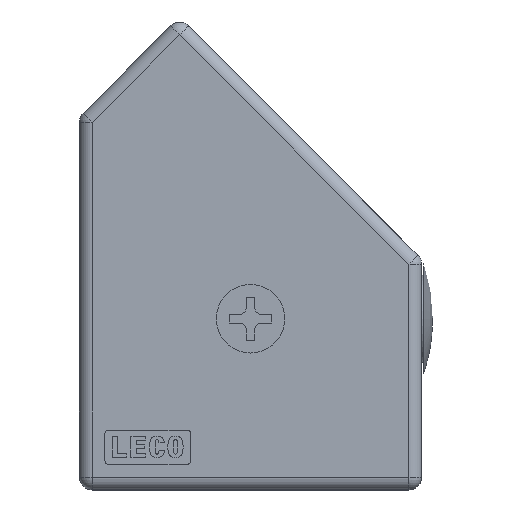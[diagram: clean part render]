
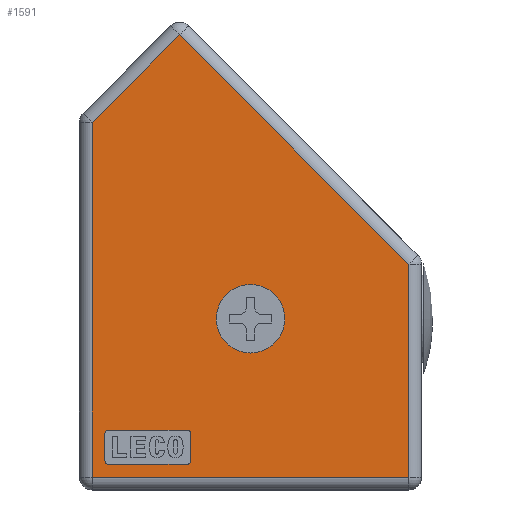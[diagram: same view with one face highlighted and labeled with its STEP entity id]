
A CAD part, left-side view. The second image highlights one B-rep face of the part: STEP entity #1591.
In plain terms, the highlighted planar face has unit normal (-1, 0, 0) as drawn and (0, 0, 1) by its records, which use the part's own axes.
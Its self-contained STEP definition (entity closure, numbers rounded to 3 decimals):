
#1591=ADVANCED_FACE('',(#3274,#3275,#3276),#3277,.F.);
#3274=FACE_BOUND('',#8081,.T.);
#3275=FACE_BOUND('',#8082,.T.);
#3276=FACE_OUTER_BOUND('',#8083,.T.);
#3277=PLANE('',#8084);
#8081=EDGE_LOOP('',(#13665,#13666,#13667,#13668,#13669,#13670,#13671,#13672));
#8082=EDGE_LOOP('',(#13673));
#8083=EDGE_LOOP('',(#13674,#13675,#13676,#13677,#13678));
#8084=AXIS2_PLACEMENT_3D('',#13679,#13680,#13681);
#13665=ORIENTED_EDGE('',*,*,#16631,.F.);
#13666=ORIENTED_EDGE('',*,*,#14836,.F.);
#13667=ORIENTED_EDGE('',*,*,#16302,.F.);
#13668=ORIENTED_EDGE('',*,*,#16632,.F.);
#13669=ORIENTED_EDGE('',*,*,#16633,.F.);
#13670=ORIENTED_EDGE('',*,*,#14875,.F.);
#13671=ORIENTED_EDGE('',*,*,#16530,.F.);
#13672=ORIENTED_EDGE('',*,*,#16634,.F.);
#13673=ORIENTED_EDGE('',*,*,#16023,.F.);
#13674=ORIENTED_EDGE('',*,*,#16488,.T.);
#13675=ORIENTED_EDGE('',*,*,#16448,.F.);
#13676=ORIENTED_EDGE('',*,*,#14897,.F.);
#13677=ORIENTED_EDGE('',*,*,#16635,.F.);
#13678=ORIENTED_EDGE('',*,*,#16636,.F.);
#13679=CARTESIAN_POINT('',(38.5,56.97,13.));
#13680=DIRECTION('',(0.0,0.0,-1.0));
#13681=DIRECTION('',(0.0,1.0,0.0));
#14836=EDGE_CURVE('',#16847,#16848,#16849,.T.);
#14875=EDGE_CURVE('',#16917,#16918,#16919,.T.);
#14897=EDGE_CURVE('',#16957,#16958,#16959,.T.);
#16023=EDGE_CURVE('',#18783,#18783,#18784,.T.);
#16302=EDGE_CURVE('',#19169,#16847,#19170,.T.);
#16448=EDGE_CURVE('',#16958,#19350,#19351,.T.);
#16488=EDGE_CURVE('',#19397,#19350,#19398,.T.);
#16530=EDGE_CURVE('',#19446,#16917,#19447,.T.);
#16631=EDGE_CURVE('',#16848,#19557,#19558,.T.);
#16632=EDGE_CURVE('',#19559,#19169,#19560,.T.);
#16633=EDGE_CURVE('',#16918,#19559,#19561,.T.);
#16634=EDGE_CURVE('',#19557,#19446,#19562,.T.);
#16635=EDGE_CURVE('',#19563,#16957,#19564,.T.);
#16636=EDGE_CURVE('',#19397,#19563,#19565,.T.);
#16847=VERTEX_POINT('',#19867);
#16848=VERTEX_POINT('',#19868);
#16849=LINE('',#19869,#19870);
#16917=VERTEX_POINT('',#19958);
#16918=VERTEX_POINT('',#19959);
#16919=LINE('',#19960,#19961);
#16957=VERTEX_POINT('',#20010);
#16958=VERTEX_POINT('',#20011);
#16959=LINE('',#20012,#20013);
#18783=VERTEX_POINT('',#23400);
#18784=CIRCLE('',#23401,4.0);
#19169=VERTEX_POINT('',#23984);
#19170=CIRCLE('',#23985,0.4);
#19350=VERTEX_POINT('',#24435);
#19351=LINE('',#24436,#24437);
#19397=VERTEX_POINT('',#24543);
#19398=LINE('',#24544,#24545);
#19446=VERTEX_POINT('',#24744);
#19447=CIRCLE('',#24745,0.4);
#19557=VERTEX_POINT('',#24953);
#19558=CIRCLE('',#24954,0.4);
#19559=VERTEX_POINT('',#24955);
#19560=LINE('',#24956,#24957);
#19561=CIRCLE('',#24958,0.4);
#19562=LINE('',#24959,#24960);
#19563=VERTEX_POINT('',#24961);
#19564=LINE('',#24962,#24963);
#19565=LINE('',#24964,#24965);
#19867=CARTESIAN_POINT('',(3.,6.6,13.));
#19868=CARTESIAN_POINT('',(3.,3.4,13.));
#19869=CARTESIAN_POINT('',(3.,6.6,13.));
#19870=VECTOR('',#25259,1.0);
#19958=CARTESIAN_POINT('',(13.,3.4,13.));
#19959=CARTESIAN_POINT('',(13.,6.6,13.));
#19960=CARTESIAN_POINT('',(13.,3.4,13.));
#19961=VECTOR('',#25313,1.0);
#20010=CARTESIAN_POINT('',(38.5,26.379,13.));
#20011=CARTESIAN_POINT('',(38.5,1.5,13.));
#20012=CARTESIAN_POINT('',(38.5,56.97,13.));
#20013=VECTOR('',#25343,1.0);
#23400=CARTESIAN_POINT('',(20.,24.,13.));
#23401=AXIS2_PLACEMENT_3D('',#26891,#26892,#26893);
#23984=CARTESIAN_POINT('',(3.4,7.,13.));
#23985=AXIS2_PLACEMENT_3D('',#27230,#27231,#27232);
#24435=CARTESIAN_POINT('',(1.5,1.5,13.));
#24436=CARTESIAN_POINT('',(44.836,1.5,13.));
#24437=VECTOR('',#27394,1.0);
#24543=CARTESIAN_POINT('',(1.5,42.947,13.));
#24544=CARTESIAN_POINT('',(1.5,56.97,13.));
#24545=VECTOR('',#27432,1.0);
#24744=CARTESIAN_POINT('',(12.6,3.,13.));
#24745=AXIS2_PLACEMENT_3D('',#27479,#27480,#27481);
#24953=CARTESIAN_POINT('',(3.4,3.,13.));
#24954=AXIS2_PLACEMENT_3D('',#27579,#27580,#27581);
#24955=CARTESIAN_POINT('',(12.6,7.,13.));
#24956=CARTESIAN_POINT('',(12.6,7.,13.));
#24957=VECTOR('',#27582,1.0);
#24958=AXIS2_PLACEMENT_3D('',#27583,#27584,#27585);
#24959=CARTESIAN_POINT('',(3.4,3.,13.));
#24960=VECTOR('',#27586,1.0);
#24961=CARTESIAN_POINT('',(11.716,53.163,13.));
#24962=CARTESIAN_POINT('',(23.204,41.675,13.));
#24963=VECTOR('',#27587,1.0);
#24964=CARTESIAN_POINT('',(27.012,68.459,13.));
#24965=VECTOR('',#27588,1.0);
#25259=DIRECTION('',(0.0,-1.0,0.0));
#25313=DIRECTION('',(0.0,1.0,0.0));
#25343=DIRECTION('',(0.0,-1.0,0.0));
#26891=CARTESIAN_POINT('',(20.,20.,13.));
#26892=DIRECTION('',(0.0,-0.0,1.0));
#26893=DIRECTION('',(0.0,1.0,0.0));
#27230=CARTESIAN_POINT('',(3.4,6.6,13.));
#27231=DIRECTION('',(0.0,0.0,1.0));
#27232=DIRECTION('',(1.0,0.0,0.0));
#27394=DIRECTION('',(-1.0,0.0,0.0));
#27432=DIRECTION('',(0.0,-1.0,0.0));
#27479=CARTESIAN_POINT('',(12.6,3.4,13.));
#27480=DIRECTION('',(0.0,0.0,1.0));
#27481=DIRECTION('',(1.0,0.0,0.0));
#27579=CARTESIAN_POINT('',(3.4,3.4,13.));
#27580=DIRECTION('',(0.0,0.0,1.0));
#27581=DIRECTION('',(1.0,0.0,0.0));
#27582=DIRECTION('',(-1.0,0.0,0.0));
#27583=CARTESIAN_POINT('',(12.6,6.6,13.));
#27584=DIRECTION('',(0.0,0.0,1.0));
#27585=DIRECTION('',(1.0,0.0,0.0));
#27586=DIRECTION('',(1.0,0.0,0.0));
#27587=DIRECTION('',(0.707,-0.707,0.0));
#27588=DIRECTION('',(0.707,0.707,0.0));
